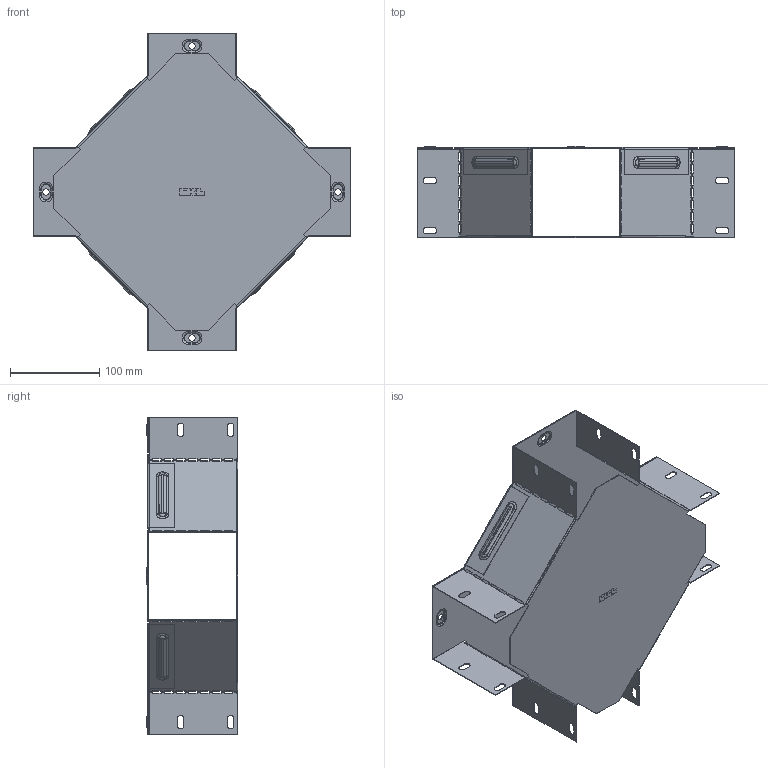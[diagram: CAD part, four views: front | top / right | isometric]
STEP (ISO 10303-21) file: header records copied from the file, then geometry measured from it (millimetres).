
FILE_DESCRIPTION (( 'STEP AP214' ), '1' );
FILE_NAME ('x10010008_捘.STEP', '2019-06-10T07:51:59', ( '砐錪賧瘔蠈錪 Windows' ), ( '' ), 'SwSTEP 2.0', 'SolidWorks 2018', '' );
FILE_SCHEMA (( 'AUTOMOTIVE_DESIGN' ));
Length unit declared in the file: millimetre
Products named in the file (1): x10010008_捘
Bounding box: 355.01 x 102.4 x 355.01 mm (x, y, z)
Volume: 180366.8 mm3; surface area: 455873.7 mm2
Topology: 2 solids, 2 shells, 964 faces, 2996 edges, 1960 vertices
Faces by surface type: plane 542, cylinder 308, torus 96, bspline 18
Entity records: 34403 total; most frequent: CARTESIAN_POINT 6879, ORIENTED_EDGE 5992, DIRECTION 5614, EDGE_CURVE 2996, VECTOR 2200, LINE 2200, VERTEX_POINT 1960, AXIS2_PLACEMENT_3D 1707
